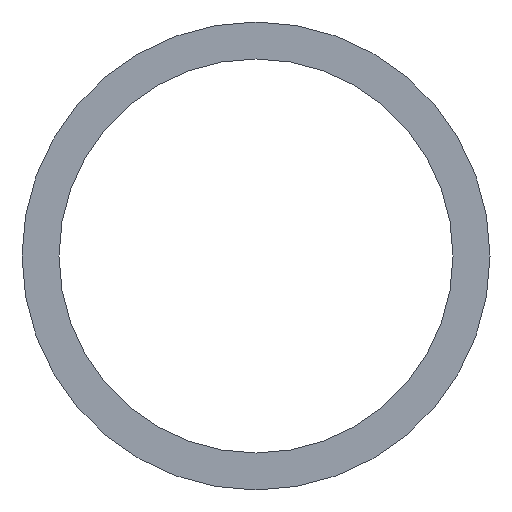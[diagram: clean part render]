
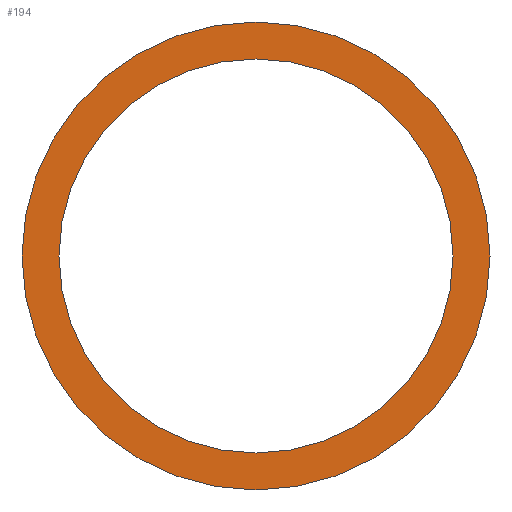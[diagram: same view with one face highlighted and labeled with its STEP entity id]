
A CAD part, left-side view. The second image highlights one B-rep face of the part: STEP entity #194.
In plain terms, the highlighted planar face has unit normal (-1, 0, 0).
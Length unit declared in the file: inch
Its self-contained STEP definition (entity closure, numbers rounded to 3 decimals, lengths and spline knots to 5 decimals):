
#48=FACE_BOUND('',#72,.T.);
#52=PLANE('',#238);
#60=FACE_OUTER_BOUND('',#71,.T.);
#71=EDGE_LOOP('',(#169,#170));
#72=EDGE_LOOP('',(#171,#172));
#83=CIRCLE('',#218,0.525);
#84=CIRCLE('',#219,0.525);
#95=CIRCLE('',#236,0.442);
#96=CIRCLE('',#237,0.442);
#99=VERTEX_POINT('',#338);
#100=VERTEX_POINT('',#340);
#111=VERTEX_POINT('',#371);
#112=VERTEX_POINT('',#373);
#116=EDGE_CURVE('',#99,#100,#83,.T.);
#117=EDGE_CURVE('',#100,#99,#84,.T.);
#131=EDGE_CURVE('',#112,#111,#95,.T.);
#132=EDGE_CURVE('',#111,#112,#96,.T.);
#169=ORIENTED_EDGE('',*,*,#117,.F.);
#170=ORIENTED_EDGE('',*,*,#116,.F.);
#171=ORIENTED_EDGE('',*,*,#131,.T.);
#172=ORIENTED_EDGE('',*,*,#132,.T.);
#194=ADVANCED_FACE('',(#60,#48),#52,.T.);
#218=AXIS2_PLACEMENT_3D('',#341,#261,#262);
#219=AXIS2_PLACEMENT_3D('',#342,#263,#264);
#236=AXIS2_PLACEMENT_3D('',#374,#300,#301);
#237=AXIS2_PLACEMENT_3D('',#375,#302,#303);
#238=AXIS2_PLACEMENT_3D('',#376,#304,#305);
#261=DIRECTION('center_axis',(1.,0.,0.));
#262=DIRECTION('ref_axis',(0.,1.,0.));
#263=DIRECTION('center_axis',(1.,0.,0.));
#264=DIRECTION('ref_axis',(0.,1.,0.));
#300=DIRECTION('center_axis',(1.,0.,0.));
#301=DIRECTION('ref_axis',(0.,1.,0.));
#302=DIRECTION('center_axis',(1.,0.,0.));
#303=DIRECTION('ref_axis',(0.,1.,0.));
#304=DIRECTION('center_axis',(-1.,0.,0.));
#305=DIRECTION('ref_axis',(0.,0.,1.));
#338=CARTESIAN_POINT('',(-2.,-0.525,0.));
#340=CARTESIAN_POINT('',(-2.,0.525,0.));
#341=CARTESIAN_POINT('Origin',(-2.,0.,0.));
#342=CARTESIAN_POINT('Origin',(-2.,0.,0.));
#371=CARTESIAN_POINT('',(-2.,-0.442,0.));
#373=CARTESIAN_POINT('',(-2.,0.442,0.));
#374=CARTESIAN_POINT('Origin',(-2.,0.,0.));
#375=CARTESIAN_POINT('Origin',(-2.,0.,0.));
#376=CARTESIAN_POINT('Origin',(-2.,0.4835,0.));
